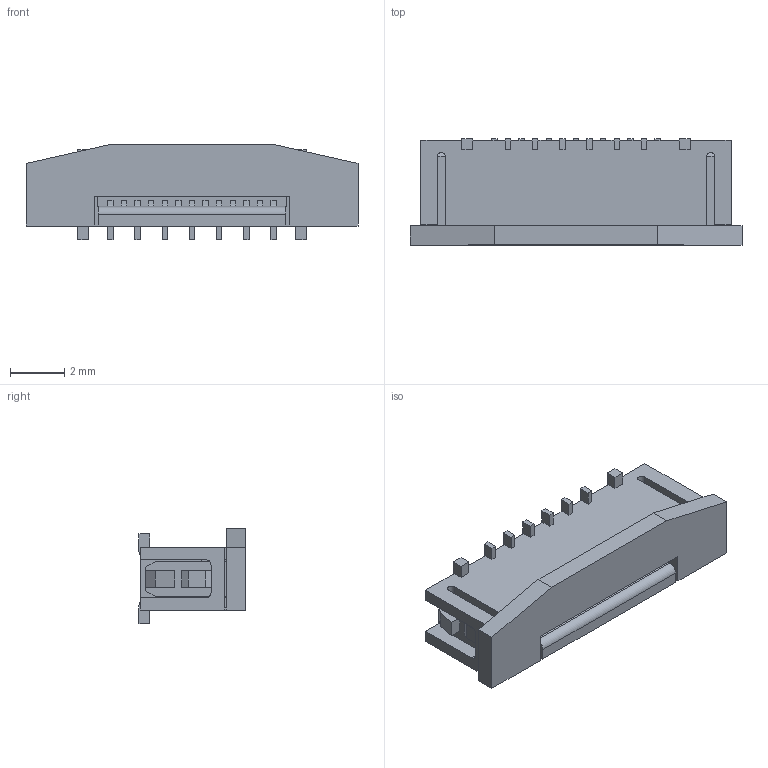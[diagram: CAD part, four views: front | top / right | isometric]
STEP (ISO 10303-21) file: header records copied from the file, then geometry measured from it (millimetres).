
FILE_DESCRIPTION(/* description */ (''),/* implementation_level */ '2;1');
FILE_NAME(/* name */ '525591353wbm000_02_214.stp',/* time_stamp */ '2024-08-30T17:15:14+06:00',/* author */ (''),/* organization */ (''),/* preprocessor_version */ 'ST-DEVELOPER v16.7',/* originating_system */ 'SIEMENS PLM Software NX 1919',/* authorisation */ '');
FILE_SCHEMA (('AUTOMOTIVE_DESIGN { 1 0 10303 214 3 1 1 1 }'));
Length unit declared in the file: millimetre
Products named in the file (1): 525591353wbm000_02
Bounding box: 12.2 x 3.9 x 3.5 mm (x, y, z)
Volume: 93.7 mm3; surface area: 316.8 mm2
Topology: 1 solids, 1 shells, 360 faces, 1157 edges, 760 vertices
Faces by surface type: plane 308, cylinder 52
Entity records: 12641 total; most frequent: ORIENTED_EDGE 2314, CARTESIAN_POINT 2278, DIRECTION 1983, EDGE_CURVE 1157, LINE 1053, VECTOR 1053, VERTEX_POINT 760, AXIS2_PLACEMENT_3D 465
